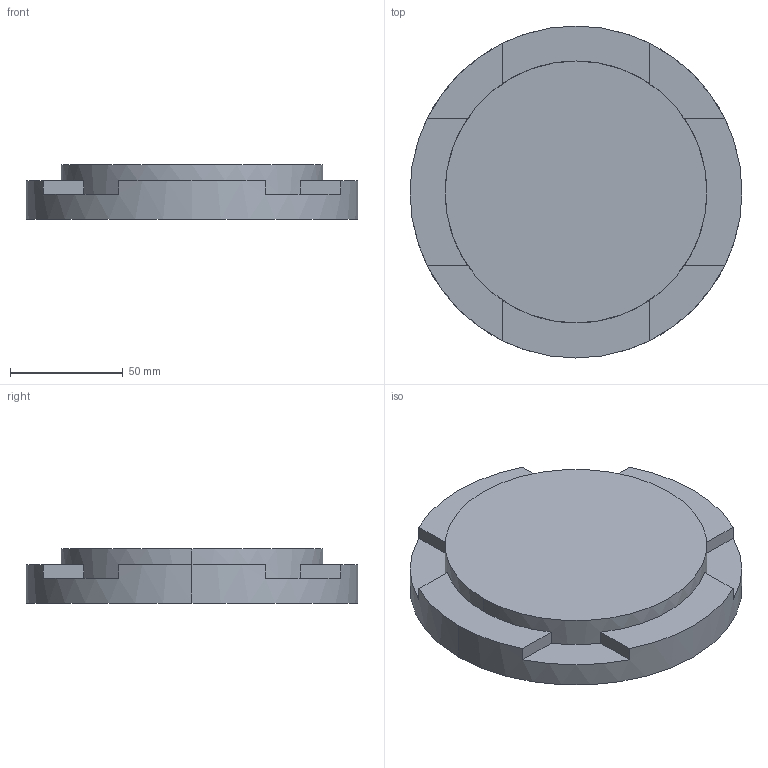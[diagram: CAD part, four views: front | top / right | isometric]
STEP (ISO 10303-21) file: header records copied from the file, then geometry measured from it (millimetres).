
FILE_DESCRIPTION (( 'STEP AP203' ), '1' );
FILE_NAME ('base.STEP', '2018-03-03T21:07:32', ( '' ), ( '' ), 'SwSTEP 2.0', 'SolidWorks 2017', '' );
FILE_SCHEMA (( 'CONFIG_CONTROL_DESIGN' ));
Length unit declared in the file: millimetre
Products named in the file (1): base
Bounding box: 147 x 147 x 24 mm (x, y, z)
Volume: 349389.6 mm3; surface area: 44579.3 mm2
Topology: 1 solids, 1 shells, 22 faces, 60 edges, 40 vertices
Faces by surface type: plane 18, cylinder 4
Entity records: 785 total; most frequent: DIRECTION 130, CARTESIAN_POINT 123, ORIENTED_EDGE 120, EDGE_CURVE 60, AXIS2_PLACEMENT_3D 47, VERTEX_POINT 40, LINE 36, VECTOR 36
